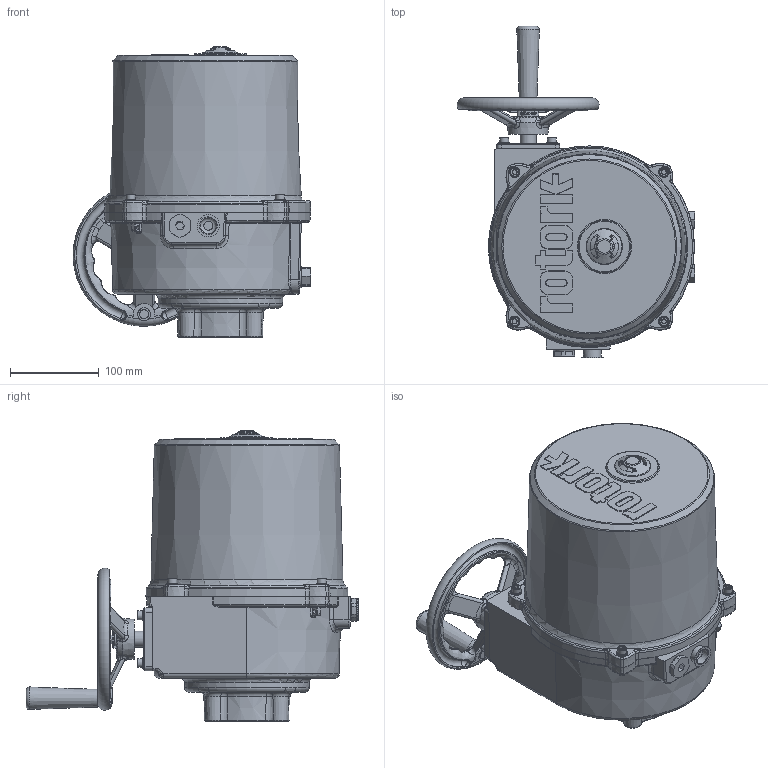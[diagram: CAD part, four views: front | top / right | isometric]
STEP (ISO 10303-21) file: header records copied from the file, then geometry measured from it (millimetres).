
FILE_DESCRIPTION(/* description */ ('Unknown'),/* implementation_level */ '2;1');
FILE_NAME(/* name */ 'ROM_sizes_4_5_6_without_torque_limit_switches-1',/* time_stamp */ '2017-01-05T17:28:54+00:00',/* author */ ('Unknown'),/* organization */ ('Unknown'),/* preprocessor_version */ 'ST-DEVELOPER v16',/* originating_system */ 'DEX',/* authorisation */ $);
FILE_SCHEMA (('AUTOMOTIVE_DESIGN {1 0 10303 214 3 1 1}'));
Products named in the file (1): ROM_sizes_4_5_6_without_torque_limit_switches-1
Bounding box: 268.06 x 374.26 x 327 mm (x, y, z)
Volume: 10448416.5 mm3; surface area: 460415.9 mm2
Topology: 1 solids, 24 shells, 1621 faces, 3923 edges, 2438 vertices
Faces by surface type: plane 461, bspline 420, cylinder 317, cone 230, torus 189, sphere 4
Full cylindrical faces by diameter (mm): 2.459 x6, 3.5 x3, 4.5 x1, 4.773 x5, 4.9 x4, 4.917 x14, 5.6 x4, 6 x13, 6.4 x9, 6.5 x8, 7.69 x1, 8.376 x8, 8.6 x1, 8.88 x1, 10 x5, 10.22 x4, 11 x2, 12 x10, 12.5 x2, 14.3 x1, 16 x1, 18 x4, 18.376 x2, 20 x2, 22.4 x1, 23.5 x2, 25 x1, 30 x1, 34 x1, 49 x1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
Entity records: 98642 total; most frequent: CARTESIAN_POINT 54279, ORIENTED_EDGE 7024, DIRECTION 5962, EDGE_CURVE 3512, AXIS2_PLACEMENT_3D 2520, VERTEX_POINT 2296, FACE_BOUND 2024, EDGE_LOOP 2012
